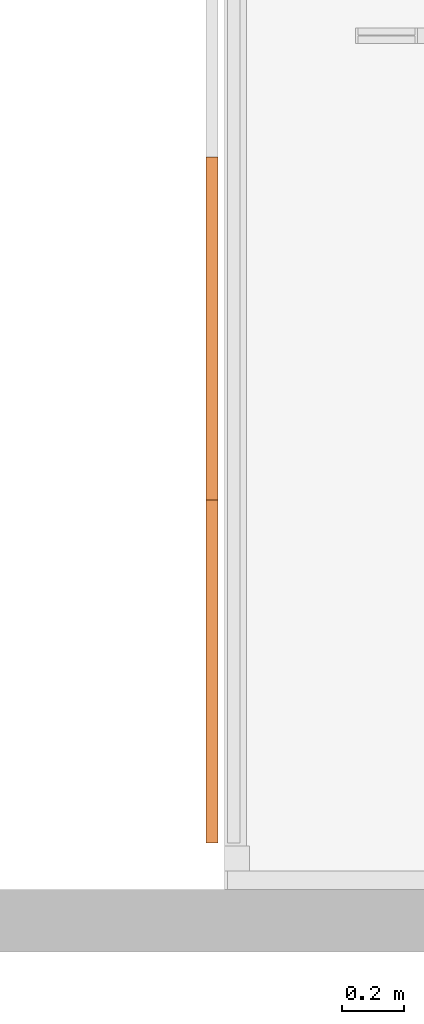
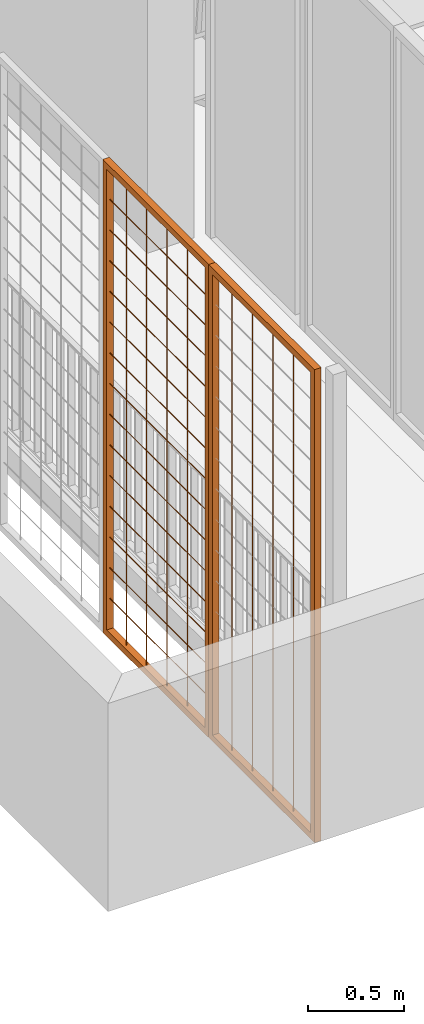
# One storey, part 37 of 51: 3 proxies.
"""IFC2X3 building model written with IfcOpenShell, lengths in metres."""

from ifc_helpers import new_model, entity, si_unit, converted_unit, derived_unit, direction, frame, frame_2d, origin, origin_2d_with_axis, place, context, subcontext, project, spatial, polyline, rectangle, outline, extrude, source, transform, mapped, material, type_object, type_shapes, element, save


model = new_model("IFC2X3")

# Units and contexts
model_context = context("Model", 3, precision=1e-05, world=origin(), true_north=direction((6.123031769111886e-17, 1.0)))
body_context = subcontext(model_context, "Body", "Model", "MODEL_VIEW")
ifc_project = project(units=[si_unit("LENGTHUNIT", "METRE"), si_unit("AREAUNIT", "SQUARE_METRE"), si_unit("VOLUMEUNIT", "CUBIC_METRE"), converted_unit("PLANEANGLEUNIT", "DEGREE", entity("IfcRatioMeasure", 0.017453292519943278), si_unit("PLANEANGLEUNIT", "RADIAN"), dimensions=[0, 0, 0, 0, 0, 0, 0]), si_unit("MASSUNIT", "GRAM", prefix="KILO"), derived_unit("MASSDENSITYUNIT", [(si_unit("MASSUNIT", "GRAM", prefix="KILO"), 1), (si_unit("LENGTHUNIT", "METRE"), -3)]), derived_unit("MOMENTOFINERTIAUNIT", [(si_unit("LENGTHUNIT", "METRE"), 4)]), si_unit("TIMEUNIT", "SECOND"), si_unit("FREQUENCYUNIT", "HERTZ"), si_unit("THERMODYNAMICTEMPERATUREUNIT", "DEGREE_CELSIUS"), derived_unit("THERMALTRANSMITTANCEUNIT", [(si_unit("MASSUNIT", "GRAM", prefix="KILO"), 1), (si_unit("THERMODYNAMICTEMPERATUREUNIT", "KELVIN"), -1), (si_unit("TIMEUNIT", "SECOND"), -3)]), derived_unit("THERMALCONDUCTANCEUNIT", [(si_unit("MASSUNIT", "GRAM", prefix="KILO"), 1), (si_unit("LENGTHUNIT", "METRE"), 1), (si_unit("THERMODYNAMICTEMPERATUREUNIT", "KELVIN"), -1), (si_unit("TIMEUNIT", "SECOND"), -3)]), derived_unit("VOLUMETRICFLOWRATEUNIT", [(si_unit("LENGTHUNIT", "METRE"), 3), (si_unit("TIMEUNIT", "SECOND"), -1)]), derived_unit("MASSFLOWRATEUNIT", [(si_unit("MASSUNIT", "GRAM", prefix="KILO"), 1), (si_unit("TIMEUNIT", "SECOND"), -1)]), derived_unit("ROTATIONALFREQUENCYUNIT", [(si_unit("TIMEUNIT", "SECOND"), -1)]), si_unit("ELECTRICCURRENTUNIT", "AMPERE"), si_unit("ELECTRICVOLTAGEUNIT", "VOLT"), si_unit("POWERUNIT", "WATT"), si_unit("FORCEUNIT", "NEWTON", prefix="KILO"), si_unit("ILLUMINANCEUNIT", "LUX"), si_unit("LUMINOUSFLUXUNIT", "LUMEN"), si_unit("LUMINOUSINTENSITYUNIT", "CANDELA"), derived_unit("USERDEFINED", [(si_unit("MASSUNIT", "GRAM", prefix="KILO"), -1), (si_unit("LENGTHUNIT", "METRE"), -2), (si_unit("TIMEUNIT", "SECOND"), 3), (si_unit("LUMINOUSFLUXUNIT", "LUMEN"), 1)]), derived_unit("USERDEFINED", [(si_unit("MASSUNIT", "GRAM", prefix="KILO"), 1), (si_unit("LENGTHUNIT", "METRE"), 3), (si_unit("TIMEUNIT", "SECOND"), -3), (si_unit("ELECTRICCURRENTUNIT", "AMPERE"), -2)]), derived_unit("USERDEFINED", [(si_unit("LENGTHUNIT", "METRE"), 2), (si_unit("TIMEUNIT", "SECOND"), -2)]), derived_unit("SOUNDPOWERUNIT", [(si_unit("MASSUNIT", "GRAM", prefix="KILO"), 1), (si_unit("LENGTHUNIT", "METRE"), 2), (si_unit("TIMEUNIT", "SECOND"), -3)]), derived_unit("SOUNDPRESSUREUNIT", [(si_unit("MASSUNIT", "GRAM", prefix="KILO"), 1), (si_unit("LENGTHUNIT", "METRE"), -1), (si_unit("TIMEUNIT", "SECOND"), -2)]), derived_unit("LINEARVELOCITYUNIT", [(si_unit("LENGTHUNIT", "METRE"), 1), (si_unit("TIMEUNIT", "SECOND"), -1)]), si_unit("PRESSUREUNIT", "PASCAL"), derived_unit("USERDEFINED", [(si_unit("LENGTHUNIT", "METRE"), -2), (si_unit("MASSUNIT", "GRAM", prefix="KILO"), 1), (si_unit("TIMEUNIT", "SECOND"), -2)]), derived_unit("LINEARFORCEUNIT", [(si_unit("MASSUNIT", "GRAM", prefix="KILO"), 1), (si_unit("LENGTHUNIT", "METRE"), 1), (si_unit("TIMEUNIT", "SECOND"), -2), (si_unit("LENGTHUNIT", "METRE"), -1)]), derived_unit("PLANARFORCEUNIT", [(si_unit("MASSUNIT", "GRAM", prefix="KILO"), 1), (si_unit("LENGTHUNIT", "METRE"), 1), (si_unit("TIMEUNIT", "SECOND"), -2), (si_unit("LENGTHUNIT", "METRE"), -2)]), derived_unit("SPECIFICHEATCAPACITYUNIT", [(si_unit("LENGTHUNIT", "METRE"), 2), (si_unit("TIMEUNIT", "SECOND"), -2), (si_unit("THERMODYNAMICTEMPERATUREUNIT", "KELVIN"), -1)]), derived_unit("VAPORPERMEABILITYUNIT", [(si_unit("TIMEUNIT", "SECOND"), 1), (si_unit("LENGTHUNIT", "METRE"), -1)]), derived_unit("DYNAMICVISCOSITYUNIT", [(si_unit("MASSUNIT", "GRAM", prefix="KILO"), 1), (si_unit("LENGTHUNIT", "METRE"), -1), (si_unit("TIMEUNIT", "SECOND"), -1)]), derived_unit("THERMALEXPANSIONCOEFFICIENTUNIT", [(si_unit("THERMODYNAMICTEMPERATUREUNIT", "KELVIN"), -1)])], contexts=[model_context])

# Site, building, storey
site_placement = place(None, origin())
site = spatial("IfcSite", under=ifc_project, at=site_placement, Name="Default", CompositionType="ELEMENT")
building_placement = place(site_placement, origin())
building = spatial("IfcBuilding", under=site, at=building_placement, CompositionType="ELEMENT")
storey_placement = place(building_placement, frame((0.0, 0.0, 3.06)))
storey = spatial("IfcBuildingStorey", under=building, at=storey_placement, Name="ÉTAGE", CompositionType="ELEMENT", Elevation=3.06)

# Proxies
ifc_material = material(Name="Peinture - Gris foncé")
building_element_proxy_type_1 = type_object("IfcBuildingElementProxyType", Name="Symb-0003", PredefinedType="NOTDEFINED", material=ifc_material)
shared_shape_1 = source(origin(), body_context, "Body", "SweptSolid", [
    extrude(outline(polyline([(-0.0011785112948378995, -0.002357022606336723), (0.0, -0.0023570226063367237), (0.001767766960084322, -0.0017677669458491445), (0.002357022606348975, 0.0), (0.0023570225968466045, 0.0011785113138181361), (0.0011785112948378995, 0.002357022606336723), (0.0, 0.002357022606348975), (-0.001767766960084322, 0.0017677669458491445), (-0.0023570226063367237, 0.0), (-0.0023570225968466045, -0.0011785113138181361), (-0.0011785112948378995, -0.002357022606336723)])), frame((139.86075228, 10.577209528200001, 6.7275), z_axis=(0.0, 1.0, 0.0), x_axis=(-0.7071067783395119, 0.0, -0.7071067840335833)), (0.0, 0.0, 1.0), 1.019999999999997),
    extrude(outline(polyline([(-0.0011785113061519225, -0.0023570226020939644), (0.0, -0.002357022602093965), (0.0017677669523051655, -0.001767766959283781), (0.0023570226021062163, 0.0), (0.002357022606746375, 0.0011785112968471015), (0.0011785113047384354, 0.0023570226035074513), (0.0, 0.0023570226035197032), (-0.0017677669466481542, 0.0017677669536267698), (-0.002357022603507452, 0.0), (-0.0023570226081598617, -0.0011785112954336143), (-0.0011785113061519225, -0.0023570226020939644)])), frame((139.86075228, 10.577209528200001, 6.532833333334), z_axis=(0.0, 1.0, 0.0), x_axis=(-0.7071067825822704, 0.0, -0.7071067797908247)), (0.0, 0.0, 1.0), 1.0199999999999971),
    extrude(outline(polyline([(-0.001178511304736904, -0.002357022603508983), (0.0, -0.002357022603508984), (0.0017677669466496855, -0.001767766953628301), (0.002357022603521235, 0.0), (0.0023570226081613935, 0.0011785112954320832), (0.0011785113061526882, 0.002357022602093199), (0.0, 0.002357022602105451), (-0.0017677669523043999, 0.0017677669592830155), (-0.0023570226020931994, 0.0), (-0.0023570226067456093, -0.0011785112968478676), (-0.001178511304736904, -0.002357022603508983)])), frame((139.86075228, 10.577209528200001, 6.338166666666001), z_axis=(0.0, 1.0, 0.0), x_axis=(-0.7071067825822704, 0.0, -0.7071067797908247)), (0.0, 0.0, 1.0), 1.019999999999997),
    extrude(outline(polyline([(-0.0011785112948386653, -0.0023570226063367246), (0.0, -0.0023570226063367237), (0.0017677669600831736, -0.001767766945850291), (0.002357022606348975, 0.0), (0.0023570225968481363, 0.001178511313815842), (0.0011785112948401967, 0.0023570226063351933), (0.0, 0.002357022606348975), (-0.001767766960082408, 0.0017677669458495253), (-0.0023570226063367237, 0.0), (-0.002357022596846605, -0.0011785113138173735), (-0.0011785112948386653, -0.0023570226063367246)])), frame((139.86075228, 10.577209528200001, 6.1435), z_axis=(0.0, 1.0, 0.0), x_axis=(-0.7071067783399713, 0.0, -0.7071067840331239)), (0.0, 0.0, 1.0), 1.019999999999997),
    extrude(outline(polyline([(-0.0011785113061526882, -0.002357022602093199), (0.0, -0.0023570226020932), (0.0017677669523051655, -0.001767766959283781), (0.002357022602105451, 0.0), (0.0023570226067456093, 0.0011785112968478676), (0.0011785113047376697, 0.002357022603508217), (0.0, 0.0023570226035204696), (-0.0017677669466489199, 0.0017677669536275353), (-0.002357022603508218, 0.0), (-0.0023570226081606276, -0.0011785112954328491), (-0.0011785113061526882, -0.002357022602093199)])), frame((139.86075228, 10.577209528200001, 5.948833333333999), z_axis=(0.0, 1.0, 0.0), x_axis=(-0.7071067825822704, 0.0, -0.7071067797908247)), (0.0, 0.0, 1.0), 1.019999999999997),
    extrude(outline(polyline([(-0.0011785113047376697, -0.002357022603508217), (0.0, -0.002357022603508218), (0.0017677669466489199, -0.0017677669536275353), (0.0023570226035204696, 0.0), (0.0023570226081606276, 0.0011785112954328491), (0.0011785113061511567, 0.0023570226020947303), (0.0, 0.0023570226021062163), (-0.0017677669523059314, 0.0017677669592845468), (-0.0023570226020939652, 0.0), (-0.0023570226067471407, -0.0011785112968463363), (-0.0011785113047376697, -0.002357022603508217)])), frame((139.86075228, 10.577209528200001, 5.754166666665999), z_axis=(0.0, 1.0, 0.0), x_axis=(-0.7071067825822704, 0.0, -0.7071067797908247)), (0.0, 0.0, 1.0), 1.019999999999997),
    extrude(outline(polyline([(-0.001178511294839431, -0.0023570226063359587), (0.0, -0.002357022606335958), (0.001767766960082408, -0.0017677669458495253), (0.0023570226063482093, 0.0), (0.0023570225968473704, 0.0011785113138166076), (0.001178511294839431, 0.0023570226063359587), (0.0, 0.0023570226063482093), (-0.001767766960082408, 0.0017677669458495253), (-0.002357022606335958, 0.0), (-0.0023570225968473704, -0.0011785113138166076), (-0.001178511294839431, -0.0023570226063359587)])), frame((139.86075228, 10.577209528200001, 5.5595), z_axis=(0.0, 1.0, 0.0), x_axis=(-0.7071067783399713, 0.0, -0.7071067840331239)), (0.0, 0.0, 1.0), 1.019999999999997),
    extrude(outline(polyline([(-0.0011785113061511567, -0.0023570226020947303), (0.0, -0.002357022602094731), (0.001767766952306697, -0.0017677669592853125), (0.002357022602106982, 0.0), (0.0023570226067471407, 0.0011785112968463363), (0.001178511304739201, 0.0023570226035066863), (0.0, 0.0023570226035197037), (-0.0017677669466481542, 0.0017677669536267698), (-0.002357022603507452, 0.0), (-0.0023570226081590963, -0.0011785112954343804), (-0.0011785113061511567, -0.0023570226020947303)])), frame((139.86075228, 10.577209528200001, 5.364833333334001), z_axis=(0.0, 1.0, 0.0), x_axis=(-0.7071067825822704, 0.0, -0.7071067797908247)), (0.0, 0.0, 1.0), 1.019999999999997),
    extrude(outline(polyline([(-0.001178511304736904, -0.002357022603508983), (0.0, -0.002357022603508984), (0.0017677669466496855, -0.001767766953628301), (0.002357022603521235, 0.0), (0.0023570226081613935, 0.0011785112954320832), (0.0011785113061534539, 0.002357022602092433), (0.0, 0.002357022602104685), (-0.0017677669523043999, 0.0017677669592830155), (-0.002357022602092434, 0.0), (-0.0023570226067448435, -0.0011785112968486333), (-0.001178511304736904, -0.002357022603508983)])), frame((139.86075228, 10.577209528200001, 5.1701666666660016), z_axis=(0.0, 1.0, 0.0), x_axis=(-0.7071067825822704, 0.0, -0.7071067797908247)), (0.0, 0.0, 1.0), 1.019999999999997),
    extrude(outline(polyline([(-0.001178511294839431, -0.0023570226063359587), (0.0, -0.002357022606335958), (0.001767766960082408, -0.0017677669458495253), (0.0023570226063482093, 0.0), (0.0023570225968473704, 0.0011785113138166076), (0.0011785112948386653, 0.0023570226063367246), (0.0, 0.0023570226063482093), (-0.0017677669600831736, 0.001767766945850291), (-0.002357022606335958, 0.0), (-0.0023570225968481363, -0.001178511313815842), (-0.001178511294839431, -0.0023570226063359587)])), frame((139.86075228, 10.577209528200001, 4.975499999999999), z_axis=(0.0, 1.0, 0.0), x_axis=(-0.7071067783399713, 0.0, -0.7071067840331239)), (0.0, 0.0, 1.0), 1.019999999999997),
    extrude(outline(polyline([(-0.0011785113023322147, -0.0023570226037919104), (0.0, -0.002357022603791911), (0.0017677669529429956, -0.0017677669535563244), (0.002357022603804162, 0.0), (0.002357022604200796, 0.0011785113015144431), (0.0011785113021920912, 0.002357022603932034), (0.0, 0.0023570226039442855), (-0.001767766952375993, 0.0017677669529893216), (-0.0023570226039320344, 0.0), (-0.0023570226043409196, -0.0011785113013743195), (-0.0011785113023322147, -0.0023570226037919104)])), frame((139.86075228, 10.577209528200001, 4.780833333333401), z_axis=(0.0, 1.0, 0.0), x_axis=(-0.7071067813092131, 0.0, -0.7071067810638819)), (0.0, 0.0, 1.0), 1.0199999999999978),
    extrude(outline(polyline([(-0.0011785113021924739, -0.0023570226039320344), (0.0, -0.0023570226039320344), (0.0017677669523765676, -0.0017677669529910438), (0.002357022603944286, 0.0), (0.0023570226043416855, 0.0011785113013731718), (0.0011785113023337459, 0.002357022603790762), (0.0, 0.0023570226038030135), (-0.0017677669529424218, 0.0017677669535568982), (-0.0023570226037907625, 0.0), (-0.002357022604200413, -0.001178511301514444), (-0.0011785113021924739, -0.0023570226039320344)])), frame((139.86075228, 10.577209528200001, 4.5861666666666), z_axis=(0.0, 1.0, 0.0), x_axis=(-0.7071067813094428, 0.0, -0.7071067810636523)), (0.0, 0.0, 1.0), 1.0199999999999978),
    extrude(outline(polyline([(-0.0011785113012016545, -0.0023570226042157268), (0.0, -0.002357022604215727), (0.001767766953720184, -0.0017677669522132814), (0.0023570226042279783, 0.0), (0.0023570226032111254, 0.0011785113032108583), (0.001178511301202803, 0.0023570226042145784), (0.0, 0.002357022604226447), (-0.0017677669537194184, 0.0017677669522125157), (-0.002357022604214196, 0.0), (-0.0023570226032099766, -0.0011785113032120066), (-0.0011785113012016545, -0.0023570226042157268)])), frame((139.86075228, 10.577209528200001, 4.391500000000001), z_axis=(0.0, 1.0, 0.0), x_axis=(-0.707106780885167, 0.0, -0.707106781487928)), (0.0, 0.0, 1.0), 1.0199999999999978),
    extrude(outline(polyline([(-0.0011785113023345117, -0.0023570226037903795), (0.0, -0.0023570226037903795), (0.0017677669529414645, -0.0017677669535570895), (0.0023570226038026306, 0.0), (0.002357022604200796, 0.0011785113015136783), (0.001178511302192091, 0.0023570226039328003), (0.0, 0.002357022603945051), (-0.00176776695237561, 0.001767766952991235), (-0.0023570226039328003, 0.0), (-0.002357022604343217, -0.0011785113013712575), (-0.0011785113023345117, -0.0023570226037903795)])), frame((139.86075228, 10.577209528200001, 4.196833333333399), z_axis=(0.0, 1.0, 0.0), x_axis=(-0.7071067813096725, 0.0, -0.7071067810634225)), (0.0, 0.0, 1.0), 1.0199999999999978),
    extrude(outline(polyline([(-0.001178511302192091, -0.002357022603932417), (0.0, -0.0023570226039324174), (0.0017677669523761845, -0.0017677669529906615), (0.0023570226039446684, 0.0), (0.0023570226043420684, 0.0011785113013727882), (0.0011785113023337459, 0.002357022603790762), (0.0, 0.0023570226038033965), (-0.001767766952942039, 0.001767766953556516), (-0.0023570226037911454, 0.0), (-0.002357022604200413, -0.0011785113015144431), (-0.001178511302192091, -0.002357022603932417)])), frame((139.86075228, 10.577209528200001, 4.0021666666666), z_axis=(0.0, 1.0, 0.0), x_axis=(-0.7071067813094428, 0.0, -0.7071067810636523)), (0.0, 0.0, 1.0), 1.0199999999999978),
    extrude(rectangle(XDim=1.099999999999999, YDim=0.039999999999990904, at=frame_2d((-1.1102230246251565e-15, 0.0), x_axis=(1.0, 0.0))), frame((139.86075227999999, 11.0872095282, 6.73), z_axis=(0.0, 0.0, 1.0), x_axis=(0.0, 1.0, 0.0)), (0.0, 0.0, 1.0), 0.03999999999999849),
    extrude(rectangle(XDim=1.099999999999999, YDim=0.039999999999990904, at=frame_2d((-1.1102230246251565e-15, 0.0), x_axis=(1.0, 0.0))), frame((139.86075227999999, 11.0872095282, 3.7699999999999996), z_axis=(0.0, 0.0, 1.0), x_axis=(0.0, 1.0, 0.0)), (0.0, 0.0, 1.0), 0.04000000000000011),
    extrude(rectangle(XDim=0.03999999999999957, YDim=0.039999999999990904, at=origin_2d_with_axis()), frame((139.86075227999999, 10.5572095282, 3.8099999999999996), z_axis=(0.0, 0.0, 1.0), x_axis=(0.0, 1.0, 0.0)), (0.0, 0.0, 1.0), 2.9200000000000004),
    extrude(rectangle(XDim=0.03999999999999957, YDim=0.039999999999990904, at=origin_2d_with_axis()), frame((139.86075227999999, 11.617209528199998, 3.8099999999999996), z_axis=(0.0, 0.0, 1.0), x_axis=(0.0, 1.0, 0.0)), (0.0, 0.0, 1.0), 2.9200000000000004),
])
type_shapes(building_element_proxy_type_1, [shared_shape_1])
proxy_1_placement = place(storey_placement, frame((0.0, 0.0, -3.06)))
element("IfcBuildingElementProxy", 1, at=proxy_1_placement, inside=storey, type_object=building_element_proxy_type_1, material=ifc_material, Name="Symb-0003 288161:Symb-0003 288161", ObjectType="Symb-0003 288161:Symb-0003 288161", context=body_context, shape_type="MappedRepresentation", body=[
    mapped(shared_shape_1, transform((0.0, 0.0, 0.0), scale=1.0)),
])
building_element_proxy_type_2 = type_object("IfcBuildingElementProxyType", Name="Symb-0003", PredefinedType="NOTDEFINED", material=ifc_material)
shared_shape_2 = source(origin(), body_context, "Body", "SweptSolid", [
    extrude(outline(polyline([(-0.0011180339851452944, -0.002236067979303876), (0.0007453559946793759, -0.002236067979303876), (0.001863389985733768, -0.0018633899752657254), (0.0026087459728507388, -0.0003726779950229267), (0.002236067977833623, 0.0007453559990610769), (0.0011180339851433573, 0.0022360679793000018), (-0.0007453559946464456, 0.0022360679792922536), (-0.0018633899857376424, 0.0018633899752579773), (-0.0026087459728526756, 0.00037267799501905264), (-0.0022360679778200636, -0.0007453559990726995), (-0.0011180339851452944, -0.002236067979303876)])), frame((139.86075228, 10.579709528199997, 3.81), z_axis=(0.0, 0.0, 1.0), x_axis=(-0.8944271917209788, -0.44721359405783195, 0.0)), (0.0, 0.0, 1.0), 2.9200000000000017),
    extrude(outline(polyline([(-0.0011180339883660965, -0.002236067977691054), (0.0007453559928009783, -0.002236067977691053), (0.0018633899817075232, -0.0018633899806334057), (0.0026087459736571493, -0.0003726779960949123), (0.0022360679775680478, 0.0007453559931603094), (0.0011180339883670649, 0.002236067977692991), (-0.0007453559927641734, 0.002236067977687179), (-0.0018633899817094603, 0.0018633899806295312), (-0.0026087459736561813, 0.00037267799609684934), (-0.0022360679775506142, -0.0007453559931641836), (-0.0011180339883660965, -0.002236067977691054)])), frame((139.86075228, 10.7917095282, 3.81), z_axis=(0.0, 0.0, 1.0), x_axis=(-0.8944271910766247, -0.44721359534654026, 0.0)), (0.0, 0.0, 1.0), 2.9200000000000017),
    extrude(outline(polyline([(-0.0011180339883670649, -0.002236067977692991), (0.0007453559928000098, -0.0022360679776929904), (0.0018633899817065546, -0.0018633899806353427), (0.0026087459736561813, -0.00037267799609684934), (0.0022360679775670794, 0.0007453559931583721), (0.0011180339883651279, 0.0022360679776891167), (-0.000745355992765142, 0.002236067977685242), (-0.0018633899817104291, 0.0018633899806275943), (-0.0026087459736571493, 0.0003726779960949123), (-0.0022360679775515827, -0.0007453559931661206), (-0.0011180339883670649, -0.002236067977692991)])), frame((139.86075228, 11.003709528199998, 3.81), z_axis=(0.0, 0.0, 1.0), x_axis=(-0.8944271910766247, -0.44721359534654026, 0.0)), (0.0, 0.0, 1.0), 2.9200000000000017),
    extrude(outline(polyline([(-0.0011180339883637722, -0.0022360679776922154), (0.0007453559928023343, -0.0022360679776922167), (0.0018633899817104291, -0.001863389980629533), (0.0026087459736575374, -0.00037267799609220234), (0.0022360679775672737, 0.0007453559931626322), (0.0011180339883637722, 0.0022360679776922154), (-0.0007453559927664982, 0.002236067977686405), (-0.0018633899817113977, 0.001863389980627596), (-0.002608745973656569, 0.00037267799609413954), (-0.002236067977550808, -0.0007453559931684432), (-0.0011180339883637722, -0.0022360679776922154)])), frame((139.86075228, 11.2157095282, 3.81), z_axis=(0.0, 0.0, 1.0), x_axis=(-0.8944271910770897, -0.4472135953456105, 0.0)), (0.0, 0.0, 1.0), 2.92),
    extrude(outline(polyline([(-0.0011180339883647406, -0.0022360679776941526), (0.0007453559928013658, -0.002236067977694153), (0.0018633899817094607, -0.0018633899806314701), (0.0026087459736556, -0.00037267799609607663), (0.0022360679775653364, 0.0007453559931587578), (0.0011180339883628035, 0.002236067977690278), (-0.0007453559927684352, 0.002236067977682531), (-0.0018633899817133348, 0.0018633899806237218), (-0.0026087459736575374, 0.00037267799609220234), (-0.002236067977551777, -0.0007453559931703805), (-0.0011180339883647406, -0.0022360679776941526)])), frame((139.86075228, 11.427709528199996, 3.81), z_axis=(0.0, 0.0, 1.0), x_axis=(-0.8944271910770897, -0.4472135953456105, 0.0)), (0.0, 0.0, 1.0), 2.92),
    extrude(rectangle(XDim=1.099999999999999, YDim=0.039999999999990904, at=frame_2d((-1.1102230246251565e-15, 0.0), x_axis=(1.0, 0.0))), frame((139.86075227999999, 11.0872095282, 6.73), z_axis=(0.0, 0.0, 1.0), x_axis=(0.0, 1.0, 0.0)), (0.0, 0.0, 1.0), 0.03999999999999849),
    extrude(rectangle(XDim=1.099999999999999, YDim=0.039999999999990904, at=frame_2d((-1.1102230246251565e-15, 0.0), x_axis=(1.0, 0.0))), frame((139.86075227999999, 11.0872095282, 3.7699999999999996), z_axis=(0.0, 0.0, 1.0), x_axis=(0.0, 1.0, 0.0)), (0.0, 0.0, 1.0), 0.04000000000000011),
    extrude(rectangle(XDim=0.03999999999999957, YDim=0.039999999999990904, at=origin_2d_with_axis()), frame((139.86075227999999, 10.5572095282, 3.8099999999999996), z_axis=(0.0, 0.0, 1.0), x_axis=(0.0, 1.0, 0.0)), (0.0, 0.0, 1.0), 2.9200000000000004),
    extrude(rectangle(XDim=0.03999999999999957, YDim=0.039999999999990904, at=origin_2d_with_axis()), frame((139.86075227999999, 11.617209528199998, 3.8099999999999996), z_axis=(0.0, 0.0, 1.0), x_axis=(0.0, 1.0, 0.0)), (0.0, 0.0, 1.0), 2.9200000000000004),
])
type_shapes(building_element_proxy_type_2, [shared_shape_2])
proxy_2_placement = place(storey_placement, frame((0.0, 0.0, -3.06)))
element("IfcBuildingElementProxy", 2, at=proxy_2_placement, inside=storey, type_object=building_element_proxy_type_2, material=ifc_material, Name="Symb-0003 464782:Symb-0003 464782", ObjectType="Symb-0003 464782:Symb-0003 464782", context=body_context, shape_type="MappedRepresentation", body=[
    mapped(shared_shape_2, transform((0.0, 0.0, 0.0), scale=1.0)),
])
building_element_proxy_type_3 = type_object("IfcBuildingElementProxyType", Name="Symb-0003", PredefinedType="NOTDEFINED", material=ifc_material)
shared_shape_3 = source(origin(), body_context, "Body", "SweptSolid", [
    extrude(outline(polyline([(-0.0011180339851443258, -0.002236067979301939), (0.0007453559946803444, -0.002236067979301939), (0.0018633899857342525, -0.0018633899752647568), (0.0026087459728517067, -0.0003726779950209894), (0.0022360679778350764, 0.0007453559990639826), (0.00111803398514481, 0.0022360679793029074), (-0.0007453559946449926, 0.0022360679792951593), (-0.001863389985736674, 0.001863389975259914), (-0.0026087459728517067, 0.0003726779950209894), (-0.0022360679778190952, -0.0007453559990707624), (-0.0011180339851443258, -0.002236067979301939)])), frame((139.86075228, 9.479709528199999, 3.81), z_axis=(0.0, 0.0, 1.0), x_axis=(-0.8944271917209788, -0.44721359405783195, 0.0)), (0.0, 0.0, 1.0), 2.9200000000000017),
    extrude(outline(polyline([(-0.0011180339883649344, -0.0022360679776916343), (0.0007453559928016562, -0.0022360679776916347), (0.0018633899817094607, -0.0018633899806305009), (0.0026087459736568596, -0.0003726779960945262), (0.0022360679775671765, 0.0007453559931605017), (0.0011180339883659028, 0.0022360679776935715), (-0.00074535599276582, 0.002236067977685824), (-0.0018633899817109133, 0.0018633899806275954), (-0.002608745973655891, 0.00037267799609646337), (-0.0022360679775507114, -0.000745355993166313), (-0.0011180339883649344, -0.0022360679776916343)])), frame((139.86075228, 9.6917095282, 3.81), z_axis=(0.0, 0.0, 1.0), x_axis=(-0.8944271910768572, -0.4472135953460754, 0.0)), (0.0, 0.0, 1.0), 2.9200000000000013),
    extrude(outline(polyline([(-0.0011180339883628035, -0.002236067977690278), (0.0007453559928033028, -0.002236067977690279), (0.0018633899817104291, -0.0018633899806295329), (0.0026087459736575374, -0.00037267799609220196), (0.0022360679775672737, 0.0007453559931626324), (0.0011180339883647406, 0.0022360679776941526), (-0.0007453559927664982, 0.002236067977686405), (-0.0018633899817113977, 0.0018633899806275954), (-0.002608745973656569, 0.00037267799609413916), (-0.0022360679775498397, -0.0007453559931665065), (-0.0011180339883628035, -0.002236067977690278)])), frame((139.86075228, 9.9037095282, 3.81), z_axis=(0.0, 0.0, 1.0), x_axis=(-0.8944271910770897, -0.4472135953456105, 0.0)), (0.0, 0.0, 1.0), 2.920000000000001),
    extrude(outline(polyline([(-0.0011180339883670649, -0.0022360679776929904), (0.0007453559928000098, -0.0022360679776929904), (0.0018633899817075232, -0.0018633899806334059), (0.0026087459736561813, -0.0003726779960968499), (0.002236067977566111, 0.0007453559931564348), (0.0011180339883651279, 0.0022360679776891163), (-0.0007453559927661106, 0.002236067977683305), (-0.0018633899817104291, 0.0018633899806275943), (-0.0026087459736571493, 0.0003726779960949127), (-0.0022360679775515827, -0.0007453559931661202), (-0.0011180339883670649, -0.0022360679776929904)])), frame((139.86075228, 10.115709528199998, 3.81), z_axis=(0.0, 0.0, 1.0), x_axis=(-0.8944271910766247, -0.44721359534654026, 0.0)), (0.0, 0.0, 1.0), 2.9200000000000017),
    extrude(outline(polyline([(-0.0011180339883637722, -0.0022360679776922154), (0.0007453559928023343, -0.0022360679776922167), (0.0018633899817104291, -0.001863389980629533), (0.0026087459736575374, -0.00037267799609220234), (0.0022360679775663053, 0.0007453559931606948), (0.0011180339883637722, 0.0022360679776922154), (-0.0007453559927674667, 0.0022360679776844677), (-0.0018633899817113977, 0.001863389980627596), (-0.002608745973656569, 0.00037267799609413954), (-0.002236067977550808, -0.0007453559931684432), (-0.0011180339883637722, -0.0022360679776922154)])), frame((139.86075228, 10.3277095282, 3.81), z_axis=(0.0, 0.0, 1.0), x_axis=(-0.8944271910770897, -0.4472135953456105, 0.0)), (0.0, 0.0, 1.0), 2.92),
    extrude(rectangle(XDim=1.1, YDim=0.039999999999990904, at=frame_2d((5.551115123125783e-16, 0.0), x_axis=(1.0, 0.0))), frame((139.86075227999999, 9.9872095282, 6.73), z_axis=(0.0, 0.0, 1.0), x_axis=(0.0, 1.0, 0.0)), (0.0, 0.0, 1.0), 0.03999999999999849),
    extrude(rectangle(XDim=1.1, YDim=0.039999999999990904, at=frame_2d((5.551115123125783e-16, 0.0), x_axis=(1.0, 0.0))), frame((139.86075227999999, 9.9872095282, 3.7699999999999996), z_axis=(0.0, 0.0, 1.0), x_axis=(0.0, 1.0, 0.0)), (0.0, 0.0, 1.0), 0.04000000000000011),
    extrude(rectangle(XDim=0.03999999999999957, YDim=0.039999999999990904, at=origin_2d_with_axis()), frame((139.86075227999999, 9.4572095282, 3.8099999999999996), z_axis=(0.0, 0.0, 1.0), x_axis=(0.0, 1.0, 0.0)), (0.0, 0.0, 1.0), 2.9200000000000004),
    extrude(rectangle(XDim=0.03999999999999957, YDim=0.039999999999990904, at=origin_2d_with_axis()), frame((139.86075227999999, 10.5172095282, 3.8099999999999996), z_axis=(0.0, 0.0, 1.0), x_axis=(0.0, 1.0, 0.0)), (0.0, 0.0, 1.0), 2.9200000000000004),
])
type_shapes(building_element_proxy_type_3, [shared_shape_3])
proxy_3_placement = place(storey_placement, frame((0.0, 0.0, -3.06)))
element("IfcBuildingElementProxy", 3, at=proxy_3_placement, inside=storey, type_object=building_element_proxy_type_3, material=ifc_material, Name="Symb-0003 464811:Symb-0003 464811", ObjectType="Symb-0003 464811:Symb-0003 464811", context=body_context, shape_type="MappedRepresentation", body=[
    mapped(shared_shape_3, transform((0.0, 0.0, 0.0), scale=1.0)),
])

save(model, "model.ifc")
